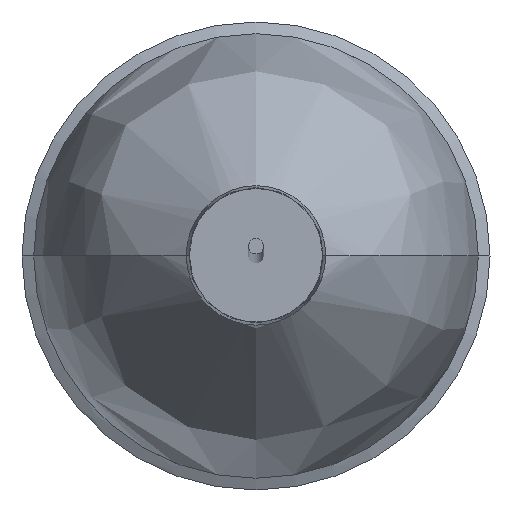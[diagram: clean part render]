
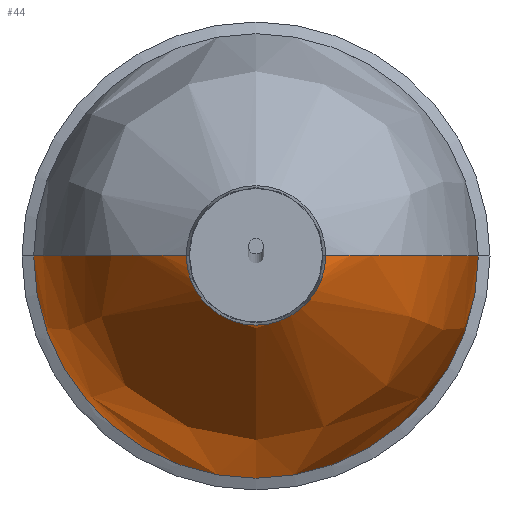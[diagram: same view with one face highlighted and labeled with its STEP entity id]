
A CAD part, top view. The second image highlights one B-rep face of the part: STEP entity #44.
In plain terms, the highlighted free-form (B-spline) face has degree [3, 2] with [11, 5] control points.
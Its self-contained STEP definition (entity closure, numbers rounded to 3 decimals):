
#20=B_SPLINE_CURVE_WITH_KNOTS('',3,(#658,#659,#660,#661,#662,#663,#664,
#665,#666,#667,#668),.UNSPECIFIED.,.F.,.F.,(4,3,1,3,4),(-0.001,
0.61,67.509,133.73,135.025),
 .UNSPECIFIED.);
#23=B_SPLINE_CURVE_WITH_KNOTS('',3,(#695,#696,#697,#698,#699,#700,#701,
#702,#703,#704,#705),.UNSPECIFIED.,.F.,.F.,(4,3,1,3,4),(-0.001,
0.61,67.509,133.73,135.025),
 .UNSPECIFIED.);
#27=(
BOUNDED_SURFACE()
B_SPLINE_SURFACE(3,2,((#485,#486,#487,#488,#489),(#490,#491,#492,#493,#494),
(#495,#496,#497,#498,#499),(#500,#501,#502,#503,#504),(#505,#506,#507,#508,
#509),(#510,#511,#512,#513,#514),(#515,#516,#517,#518,#519),(#520,#521,
#522,#523,#524),(#525,#526,#527,#528,#529),(#530,#531,#532,#533,#534),(#535,
#536,#537,#538,#539)),.UNSPECIFIED.,.F.,.F.,.F.)
B_SPLINE_SURFACE_WITH_KNOTS((4,3,1,3,4),(3,2,3),(-0.001,0.61,
67.509,133.73,135.025),(0.,141.945,
283.89),.UNSPECIFIED.)
GEOMETRIC_REPRESENTATION_ITEM()
RATIONAL_B_SPLINE_SURFACE(((1.,0.707,1.,0.707,1.),
(1.,0.707,1.,0.707,1.),(1.,0.707,1.,
0.707,1.),(1.,0.707,1.,0.707,1.),(1.,
0.707,1.,0.707,1.),(1.,0.707,1.,0.707,
1.),(1.,0.707,1.,0.707,1.),(1.,0.707,
1.,0.707,1.),(1.,0.707,1.,0.707,1.),
(1.,0.707,1.,0.707,1.),(1.,0.707,1.,
0.707,1.)))
REPRESENTATION_ITEM('')
SURFACE()
);
#44=ADVANCED_FACE('',(#60),#27,.T.);
#60=FACE_OUTER_BOUND('',#76,.T.);
#76=EDGE_LOOP('',(#106,#107,#108,#109));
#106=ORIENTED_EDGE('',*,*,#155,.F.);
#107=ORIENTED_EDGE('',*,*,#154,.T.);
#108=ORIENTED_EDGE('',*,*,#156,.T.);
#109=ORIENTED_EDGE('',*,*,#163,.F.);
#154=EDGE_CURVE('',#225,#224,#20,.T.);
#155=EDGE_CURVE('',#225,#229,#184,.T.);
#156=EDGE_CURVE('',#224,#226,#185,.T.);
#163=EDGE_CURVE('',#229,#226,#23,.T.);
#184=TRIMMED_CURVE($,#204,(#670),(#671),.T.,.CARTESIAN.);
#185=TRIMMED_CURVE($,#205,(#673),(#674),.T.,.CARTESIAN.);
#204=CIRCLE('',#344,85.835);
#205=CIRCLE('',#345,26.921);
#224=VERTEX_POINT('',#638);
#225=VERTEX_POINT('',#639);
#226=VERTEX_POINT('',#640);
#229=VERTEX_POINT('',#643);
#344=AXIS2_PLACEMENT_3D($,#669,#383,#384);
#345=AXIS2_PLACEMENT_3D($,#672,#385,#386);
#383=DIRECTION('',(0.,0.,-1.));
#384=DIRECTION('',(1.,0.,0.));
#385=DIRECTION('',(0.,0.,-1.));
#386=DIRECTION('',(1.,0.,0.));
#485=CARTESIAN_POINT('',(85.835,0.,-160.938));
#486=CARTESIAN_POINT('',(85.835,-85.835,-160.938));
#487=CARTESIAN_POINT('',(0.,-85.835,-160.938));
#488=CARTESIAN_POINT('',(-85.835,-85.835,-160.938));
#489=CARTESIAN_POINT('',(-85.835,0.,-160.938));
#490=CARTESIAN_POINT('',(85.834,0.,-160.62));
#491=CARTESIAN_POINT('',(85.834,-85.834,-160.62));
#492=CARTESIAN_POINT('',(0.,-85.834,-160.62));
#493=CARTESIAN_POINT('',(-85.834,-85.834,-160.62));
#494=CARTESIAN_POINT('',(-85.834,0.,-160.62));
#495=CARTESIAN_POINT('',(85.833,0.,-160.303));
#496=CARTESIAN_POINT('',(85.833,-85.833,-160.303));
#497=CARTESIAN_POINT('',(0.,-85.833,-160.303));
#498=CARTESIAN_POINT('',(-85.833,-85.833,-160.303));
#499=CARTESIAN_POINT('',(-85.833,0.,-160.303));
#500=CARTESIAN_POINT('',(85.832,0.,-159.985));
#501=CARTESIAN_POINT('',(85.832,-85.832,-159.985));
#502=CARTESIAN_POINT('',(0.,-85.832,-159.985));
#503=CARTESIAN_POINT('',(-85.832,-85.832,-159.985));
#504=CARTESIAN_POINT('',(-85.832,0.,-159.985));
#505=CARTESIAN_POINT('',(85.74,0.,-125.239));
#506=CARTESIAN_POINT('',(85.74,-85.74,-125.239));
#507=CARTESIAN_POINT('',(0.,-85.74,-125.239));
#508=CARTESIAN_POINT('',(-85.74,-85.74,-125.239));
#509=CARTESIAN_POINT('',(-85.74,0.,-125.239));
#510=CARTESIAN_POINT('',(75.535,0.,-72.799));
#511=CARTESIAN_POINT('',(75.535,-75.535,-72.799));
#512=CARTESIAN_POINT('',(0.,-75.535,-72.799));
#513=CARTESIAN_POINT('',(-75.535,-75.535,-72.799));
#514=CARTESIAN_POINT('',(-75.535,0.,-72.799));
#515=CARTESIAN_POINT('',(48.227,0.,-39.201));
#516=CARTESIAN_POINT('',(48.227,-48.227,-39.201));
#517=CARTESIAN_POINT('',(0.,-48.227,-39.201));
#518=CARTESIAN_POINT('',(-48.227,-48.227,-39.201));
#519=CARTESIAN_POINT('',(-48.227,0.,-39.201));
#520=CARTESIAN_POINT('',(28.102,0.,-27.5));
#521=CARTESIAN_POINT('',(28.102,-28.102,-27.5));
#522=CARTESIAN_POINT('',(0.,-28.102,-27.5));
#523=CARTESIAN_POINT('',(-28.102,-28.102,-27.5));
#524=CARTESIAN_POINT('',(-28.102,0.,-27.5));
#525=CARTESIAN_POINT('',(27.708,0.,-27.271));
#526=CARTESIAN_POINT('',(27.708,-27.708,-27.271));
#527=CARTESIAN_POINT('',(0.,-27.708,-27.271));
#528=CARTESIAN_POINT('',(-27.708,-27.708,-27.271));
#529=CARTESIAN_POINT('',(-27.708,0.,-27.271));
#530=CARTESIAN_POINT('',(27.314,0.,-27.042));
#531=CARTESIAN_POINT('',(27.314,-27.314,-27.042));
#532=CARTESIAN_POINT('',(0.,-27.314,-27.042));
#533=CARTESIAN_POINT('',(-27.314,-27.314,-27.042));
#534=CARTESIAN_POINT('',(-27.314,0.,-27.042));
#535=CARTESIAN_POINT('',(26.921,0.,-26.813));
#536=CARTESIAN_POINT('',(26.921,-26.921,-26.813));
#537=CARTESIAN_POINT('',(0.,-26.921,-26.813));
#538=CARTESIAN_POINT('',(-26.921,-26.921,-26.813));
#539=CARTESIAN_POINT('',(-26.921,0.,-26.813));
#638=CARTESIAN_POINT('',(26.921,0.,-26.813));
#639=CARTESIAN_POINT('',(85.835,0.,-160.938));
#640=CARTESIAN_POINT('',(-26.921,0.,-26.813));
#643=CARTESIAN_POINT('',(-85.835,0.,-160.938));
#658=CARTESIAN_POINT('',(85.835,0.,-160.938));
#659=CARTESIAN_POINT('',(85.834,0.,-160.62));
#660=CARTESIAN_POINT('',(85.833,0.,-160.303));
#661=CARTESIAN_POINT('',(85.832,0.,-159.985));
#662=CARTESIAN_POINT('',(85.74,0.,-125.239));
#663=CARTESIAN_POINT('',(75.535,0.,-72.799));
#664=CARTESIAN_POINT('',(48.227,0.,-39.201));
#665=CARTESIAN_POINT('',(28.102,0.,-27.5));
#666=CARTESIAN_POINT('',(27.708,0.,-27.271));
#667=CARTESIAN_POINT('',(27.314,0.,-27.042));
#668=CARTESIAN_POINT('',(26.921,0.,-26.813));
#669=CARTESIAN_POINT('',(0.,0.,-160.938));
#670=CARTESIAN_POINT('',(85.835,0.,-160.938));
#671=CARTESIAN_POINT('',(-85.835,0.,-160.938));
#672=CARTESIAN_POINT('',(0.,0.,-26.813));
#673=CARTESIAN_POINT('',(26.921,0.,-26.813));
#674=CARTESIAN_POINT('',(-26.921,0.,-26.813));
#695=CARTESIAN_POINT('',(-85.835,0.,-160.938));
#696=CARTESIAN_POINT('',(-85.834,0.,-160.62));
#697=CARTESIAN_POINT('',(-85.833,0.,-160.303));
#698=CARTESIAN_POINT('',(-85.832,0.,-159.985));
#699=CARTESIAN_POINT('',(-85.74,0.,-125.239));
#700=CARTESIAN_POINT('',(-75.535,0.,-72.799));
#701=CARTESIAN_POINT('',(-48.227,0.,-39.201));
#702=CARTESIAN_POINT('',(-28.102,0.,-27.5));
#703=CARTESIAN_POINT('',(-27.708,0.,-27.271));
#704=CARTESIAN_POINT('',(-27.314,0.,-27.042));
#705=CARTESIAN_POINT('',(-26.921,0.,-26.813));
